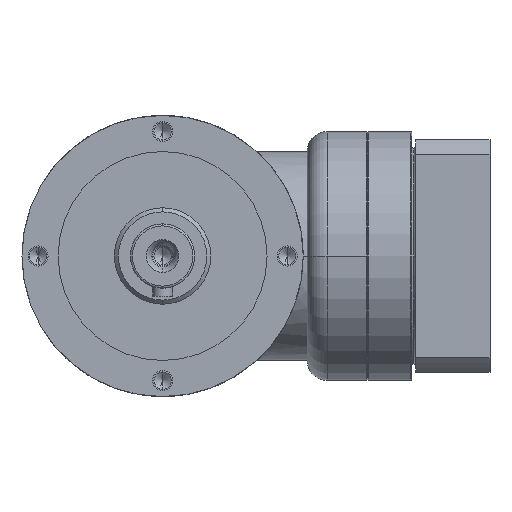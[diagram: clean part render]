
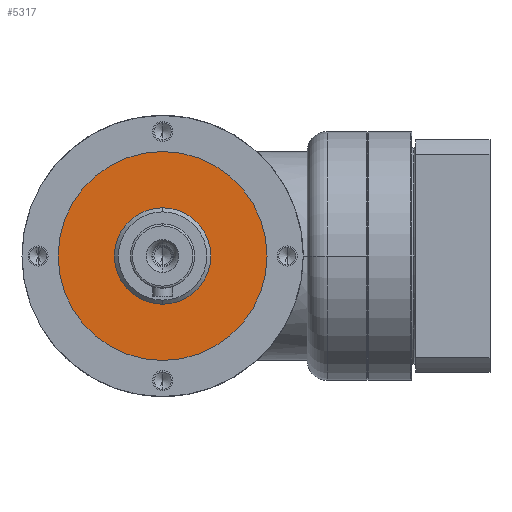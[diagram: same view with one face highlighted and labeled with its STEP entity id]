
A CAD part, left-side view. The second image highlights one B-rep face of the part: STEP entity #5317.
In plain terms, the highlighted planar face has unit normal (-1, 0, 0).
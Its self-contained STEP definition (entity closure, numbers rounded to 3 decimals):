
#4649=CARTESIAN_POINT('',(-6.5,0.,0.));
#4650=DIRECTION('',(-1.,0.,0.));
#4651=DIRECTION('',(0.,1.,0.));
#4652=AXIS2_PLACEMENT_3D('',#4649,#4650,#4651);
#4654=CARTESIAN_POINT('',(-6.5,0.,0.));
#4655=DIRECTION('',(1.,0.,0.));
#4656=DIRECTION('',(0.,1.,0.));
#4657=AXIS2_PLACEMENT_3D('',#4654,#4655,#4656);
#4659=CARTESIAN_POINT('',(-6.5,0.,0.));
#4660=DIRECTION('',(1.,0.,0.));
#4661=DIRECTION('',(0.,1.,0.));
#4662=AXIS2_PLACEMENT_3D('',#4659,#4660,#4661);
#4672=CARTESIAN_POINT('',(-6.5,0.,0.));
#4673=DIRECTION('',(-1.,0.,0.));
#4674=DIRECTION('',(0.,1.,0.));
#4675=AXIS2_PLACEMENT_3D('',#4672,#4673,#4674);
#4962=CARTESIAN_POINT('',(-6.5,26.,0.));
#4964=VERTEX_POINT('',#4962);
#4965=CARTESIAN_POINT('',(-6.5,12.,0.));
#4967=VERTEX_POINT('',#4965);
#4974=CARTESIAN_POINT('',(-6.5,-26.,0.));
#4976=VERTEX_POINT('',#4974);
#4977=CARTESIAN_POINT('',(-6.5,-12.,0.));
#4979=VERTEX_POINT('',#4977);
#5302=CARTESIAN_POINT('',(-6.5,0.,0.));
#5303=DIRECTION('',(1.,0.,0.));
#5304=DIRECTION('',(0.,-1.,0.));
#5305=AXIS2_PLACEMENT_3D('',#5302,#5303,#5304);
#5306=PLANE('',#5305);
#5307=ORIENTED_EDGE('',*,*,#5295,.F.);
#5308=ORIENTED_EDGE('',*,*,#5284,.T.);
#5309=EDGE_LOOP('',(#5307,#5308));
#5310=FACE_OUTER_BOUND('',#5309,.F.);
#5312=ORIENTED_EDGE('',*,*,#5311,.F.);
#5314=ORIENTED_EDGE('',*,*,#5313,.T.);
#5315=EDGE_LOOP('',(#5312,#5314));
#5316=FACE_BOUND('',#5315,.F.);
#5317=ADVANCED_FACE('',(#5310,#5316),#5306,.F.);
#4653=CIRCLE('',#4652,26.);
#4658=CIRCLE('',#4657,26.);
#4663=CIRCLE('',#4662,12.);
#4676=CIRCLE('',#4675,12.);
#5284=EDGE_CURVE('',#4964,#4976,#4658,.T.);
#5295=EDGE_CURVE('',#4964,#4976,#4653,.T.);
#5311=EDGE_CURVE('',#4967,#4979,#4663,.T.);
#5313=EDGE_CURVE('',#4967,#4979,#4676,.T.);
